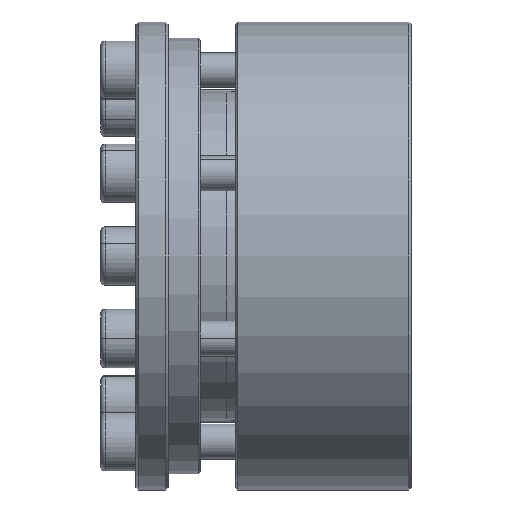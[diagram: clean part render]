
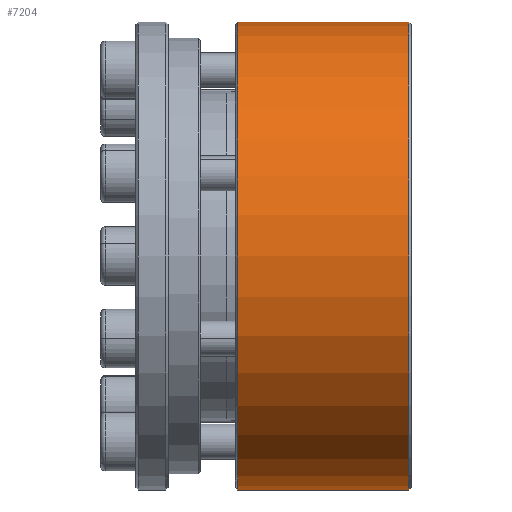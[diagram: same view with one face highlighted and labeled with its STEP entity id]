
A CAD part, front view. The second image highlights one B-rep face of the part: STEP entity #7204.
In plain terms, the highlighted cylindrical face has radius 39.95 mm (diameter 79.9 mm), a partial arc.
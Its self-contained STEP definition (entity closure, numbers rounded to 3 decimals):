
#116 = ORIENTED_EDGE ( 'NONE', *, *, #5283, .F. ) ;
#177 = CARTESIAN_POINT ( 'NONE',  ( -59.166, 26.04, -39.95 ) ) ;
#343 = DIRECTION ( 'NONE',  ( 0., 0., -1. ) ) ;
#533 = LINE ( 'NONE', #7757, #7142 ) ;
#572 = DIRECTION ( 'NONE',  ( -1., 0., 0. ) ) ;
#645 = EDGE_CURVE ( 'NONE', #1979, #5693, #1376, .T. ) ;
#911 = EDGE_CURVE ( 'NONE', #5566, #3117, #7831, .T. ) ;
#1140 = LINE ( 'NONE', #3504, #7448 ) ;
#1376 = CIRCLE ( 'NONE', #6613, 39.95 ) ;
#1979 = VERTEX_POINT ( 'NONE', #6624 ) ;
#1984 = CARTESIAN_POINT ( 'NONE',  ( -59.166, 26.04, 39.95 ) ) ;
#2156 = ORIENTED_EDGE ( 'NONE', *, *, #645, .T. ) ;
#2450 = ORIENTED_EDGE ( 'NONE', *, *, #911, .T. ) ;
#2707 = AXIS2_PLACEMENT_3D ( 'NONE', #4378, #3197, #6722 ) ;
#3117 = VERTEX_POINT ( 'NONE', #1984 ) ;
#3197 = DIRECTION ( 'NONE',  ( -1., 0., 0. ) ) ;
#3504 = CARTESIAN_POINT ( 'NONE',  ( -88.766, 26.04, 39.95 ) ) ;
#3868 = DIRECTION ( 'NONE',  ( 1., 0., 0. ) ) ;
#4295 = CYLINDRICAL_SURFACE ( 'NONE', #2707, 39.95 ) ;
#4378 = CARTESIAN_POINT ( 'NONE',  ( -88.766, 26.04, 0. ) ) ;
#4494 = CARTESIAN_POINT ( 'NONE',  ( -88.366, 26.04, -39.95 ) ) ;
#4827 = DIRECTION ( 'NONE',  ( -1., 0., 0. ) ) ;
#4968 = DIRECTION ( 'NONE',  ( 0., 0., 1. ) ) ;
#5283 = EDGE_CURVE ( 'NONE', #5566, #5693, #533, .T. ) ;
#5337 = CARTESIAN_POINT ( 'NONE',  ( -59.166, 26.04, 0. ) ) ;
#5537 = DIRECTION ( 'NONE',  ( -1., 0., 0. ) ) ;
#5566 = VERTEX_POINT ( 'NONE', #177 ) ;
#5693 = VERTEX_POINT ( 'NONE', #4494 ) ;
#5739 = EDGE_LOOP ( 'NONE', ( #116, #2450, #6913, #2156 ) ) ;
#6377 = CARTESIAN_POINT ( 'NONE',  ( -88.366, 26.04, 0. ) ) ;
#6428 = AXIS2_PLACEMENT_3D ( 'NONE', #5337, #5537, #4968 ) ;
#6613 = AXIS2_PLACEMENT_3D ( 'NONE', #6377, #3868, #343 ) ;
#6624 = CARTESIAN_POINT ( 'NONE',  ( -88.366, 26.04, 39.95 ) ) ;
#6722 = DIRECTION ( 'NONE',  ( 0., 0., 1. ) ) ;
#6913 = ORIENTED_EDGE ( 'NONE', *, *, #7440, .T. ) ;
#7142 = VECTOR ( 'NONE', #572, 1000. ) ;
#7204 = ADVANCED_FACE ( 'NONE', ( #7321 ), #4295, .T. ) ;
#7321 = FACE_OUTER_BOUND ( 'NONE', #5739, .T. ) ;
#7440 = EDGE_CURVE ( 'NONE', #3117, #1979, #1140, .T. ) ;
#7448 = VECTOR ( 'NONE', #4827, 1000. ) ;
#7757 = CARTESIAN_POINT ( 'NONE',  ( -88.766, 26.04, -39.95 ) ) ;
#7831 = CIRCLE ( 'NONE', #6428, 39.95 ) ;
